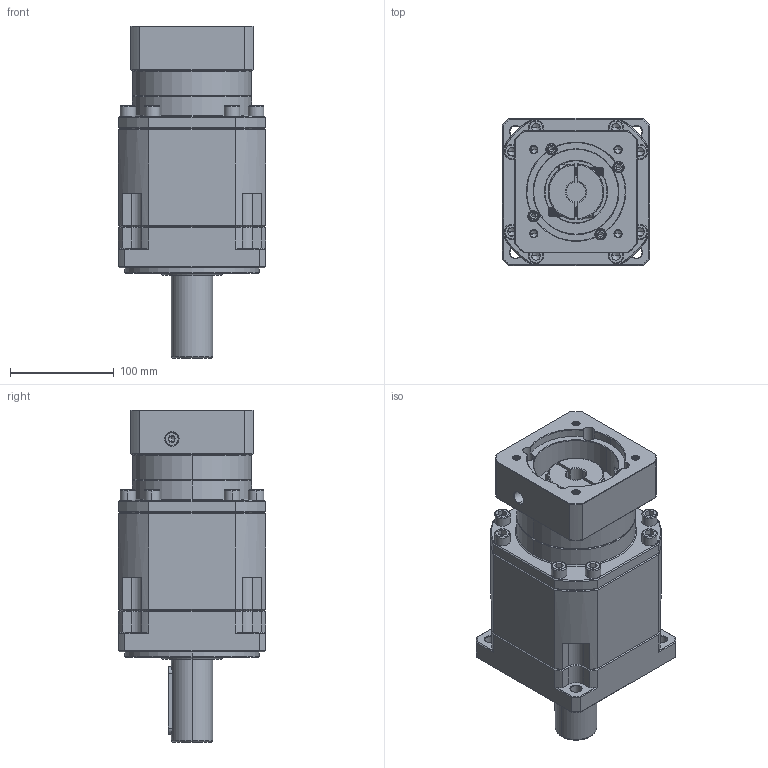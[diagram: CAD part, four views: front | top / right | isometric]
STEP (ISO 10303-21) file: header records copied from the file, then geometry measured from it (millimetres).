
FILE_DESCRIPTION (( 'STEP AP214' ), '1' );
FILE_NAME ('ZB142A-D40-L3-19-95-115-M8.step', '2023-03-18T07:05:40', ( '' ), ( '' ), 'SwSTEP 2.0', 'SolidWorks 2016', '' );
FILE_SCHEMA (( 'AUTOMOTIVE_DESIGN' ));
Length unit declared in the file: millimetre
Products named in the file (1): ZB142A-D40-L3-19-95-115-M8
Bounding box: 142 x 142 x 320.7 mm (x, y, z)
Volume: 3711859.3 mm3; surface area: 259018 mm2
Topology: 6 solids, 6 shells, 2288 faces, 5922 edges, 3751 vertices
Faces by surface type: plane 1025, cylinder 497, cone 401, bspline 327, torus 38
Entity records: 120767 total; most frequent: CARTESIAN_POINT 42435, ORIENTED_EDGE 11736, DIRECTION 9953, EDGE_CURVE 5868, VERTEX_POINT 3751, LINE 3599, VECTOR 3599, AXIS2_PLACEMENT_3D 3177
